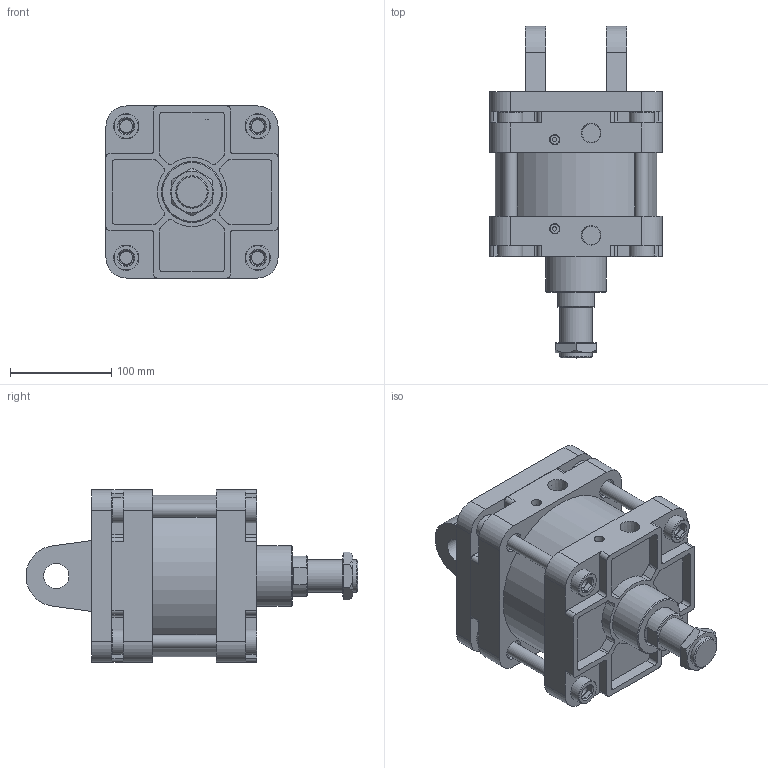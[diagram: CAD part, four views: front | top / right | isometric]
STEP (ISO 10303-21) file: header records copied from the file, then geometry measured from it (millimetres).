
FILE_DESCRIPTION(/* description */ ('Unknown'),/* implementation_level */ '2;1');
FILE_NAME(/* name */ 'WA150-0-CB',/* time_stamp */ '2026-07-17T17:00:32+08:00',/* author */ ('Unknown'),/* organization */ ('Unknown'),/* preprocessor_version */ 'ST-DEVELOPER v16.7',/* originating_system */ 'DEX',/* authorisation */ $);
FILE_SCHEMA (('CONFIG_CONTROL_DESIGN'));
Length unit declared in the file: millimetre
Products named in the file (8): WA150-0-CB; WA150_前0; WA150_ｫ矜|｡I; WA150_鋁; WA150_¤ß¶b¬¡æ´»å¡žçµ„; WA150_CB; WA150_T帽牙; M32-2.0P-10_螺
Assembly tree (10 placements, depth 2):
  WA150-0-CB
    WA150_前0
    WA150_ｫ矜|｡I
    WA150_鋁
    WA150_¤ß¶b¬¡æ´»å¡žçµ„
    WA150_CB
    WA150_T帽牙  x4
    M32-2.0P-10_螺
Bounding box: 170 x 327.89 x 170 mm (x, y, z)
Volume: 3978847.2 mm3; surface area: 501739.4 mm2
Topology: 10 solids, 10 shells, 423 faces, 1035 edges, 691 vertices
Faces by surface type: plane 237, cylinder 155, cone 23, torus 8
Full cylindrical faces by diameter (mm): 9 x2, 10 x2, 12.5 x8, 14 x4, 15 x4, 20 x16, 22.5 x4, 25 x10, 30 x1, 32 x1, 40 x2, 41 x1, 60 x1, 149.5 x1, 150 x3, 160 x1
Entity records: 11658 total; most frequent: CARTESIAN_POINT 1749, DIRECTION 1690, ORIENTED_EDGE 1502, EDGE_CURVE 751, AXIS2_PLACEMENT_3D 632, VERTEX_POINT 527, EDGE_LOOP 444, FACE_BOUND 444
